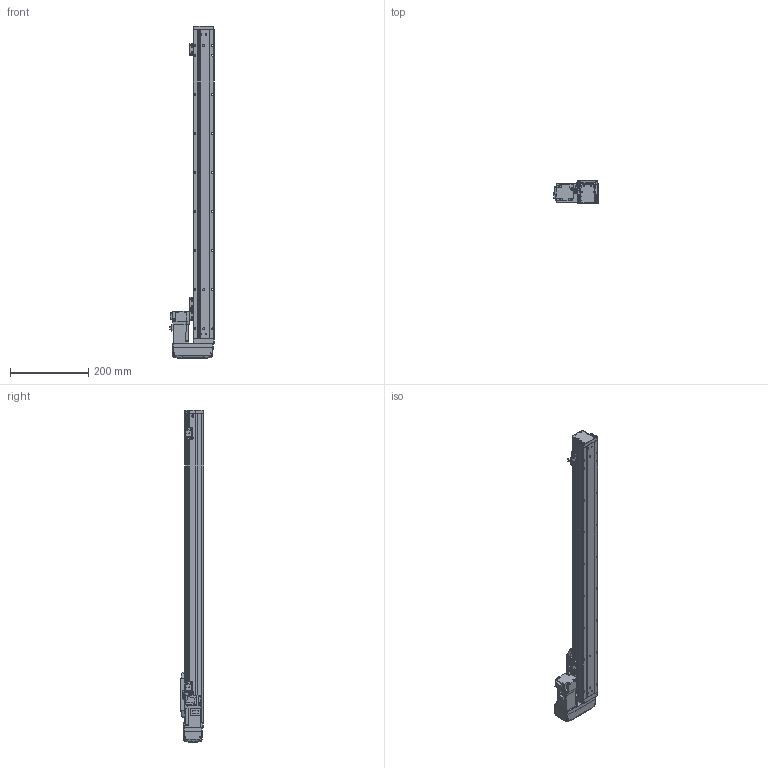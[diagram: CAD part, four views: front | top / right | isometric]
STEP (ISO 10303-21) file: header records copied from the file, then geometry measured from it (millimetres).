
FILE_DESCRIPTION (( 'STEP AP203' ), '1' );
FILE_NAME ('GTH5-650-BL-M10-C4.step', '2022-09-23T00:45:13', ( '微软用户' ), ( '微软中国' ), 'SwSTEP 2.0', 'SolidWorks 2020', '' );
FILE_SCHEMA (( 'CONFIG_CONTROL_DESIGN' ));
Length unit declared in the file: millimetre
Products named in the file (19): GBT 70.1-M2.5×6; GTH50-003; GTH50-028; GTH50-006; GTH50-013; GTH50-022-1; GTH50-004; GTH50-023; HG-KR13; GBT 70.3-M3℅6; GBT 70.1-M3℅6; GTH50-027-1_BTHA50-027-2; BTH-M3X5X6; GBT96.1-2002 3×0.8; GTH50-026; GTH50-001_650; GTH50-024; GTH5-650-BL-M10-C4; GBT 70.1-M4×16
Assembly tree (57 placements, depth 2):
  GTH5-650-BL-M10-C4
    GTH50-006
    GTH50-004
    GBT 70.3-M3℅6  x4
    BTH-M3X5X6  x8
    GTH50-001_650
    GBT 70.1-M4×16  x8
    GTH50-003
    GTH50-013
    GTH50-023  x3
    GBT 70.1-M3℅6  x12
    GBT96.1-2002 3×0.8  x6
    GTH50-024  x3
    GBT 70.1-M2.5×6  x2
    GTH50-028  x2
    GTH50-022-1
    HG-KR13
    GTH50-027-1_BTHA50-027-2
    GTH50-026
Bounding box: 113.8 x 60 x 850 mm (x, y, z)
Volume: 1918918.7 mm3; surface area: 317018.5 mm2
Topology: 59 solids, 59 shells, 2164 faces, 5028 edges, 3084 vertices
Faces by surface type: plane 1142, cylinder 593, cone 219, torus 162, bspline 40, sphere 8
Entity records: 40308 total; most frequent: CARTESIAN_POINT 7971, DIRECTION 6213, ORIENTED_EDGE 5970, EDGE_CURVE 2985, AXIS2_PLACEMENT_3D 2164, VERTEX_POINT 1886, VECTOR 1885, LINE 1885
